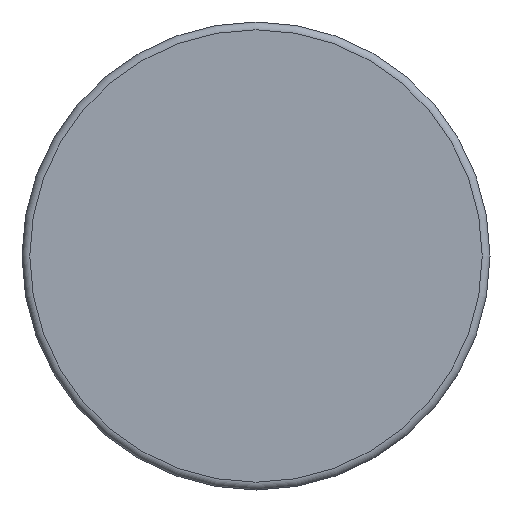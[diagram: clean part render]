
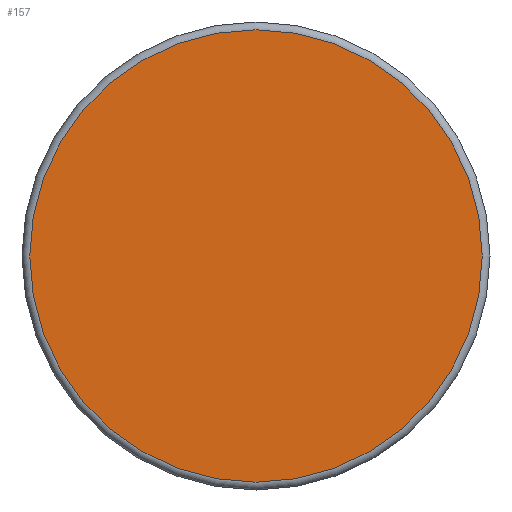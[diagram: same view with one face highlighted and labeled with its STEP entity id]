
A CAD part, front view. The second image highlights one B-rep face of the part: STEP entity #157.
In plain terms, the highlighted planar face has unit normal (0, -1, 0).
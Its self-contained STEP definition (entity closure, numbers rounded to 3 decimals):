
#157 = ADVANCED_FACE( '', ( #321 ), #322, .F. );
#321 = FACE_OUTER_BOUND( '', #521, .T. );
#322 = PLANE( '', #522 );
#521 = EDGE_LOOP( '', ( #749 ) );
#522 = AXIS2_PLACEMENT_3D( '', #750, #751, #752 );
#749 = ORIENTED_EDGE( '', *, *, #1150, .T. );
#750 = CARTESIAN_POINT( '', ( 29., 0., 0. ) );
#751 = DIRECTION( '', ( 0., 1., 0. ) );
#752 = DIRECTION( '', ( 0., 0., 1. ) );
#1150 = EDGE_CURVE( '', #1338, #1338, #1339, .T. );
#1338 = VERTEX_POINT( '', #1660 );
#1339 = CIRCLE( '', #1661, 29. );
#1660 = CARTESIAN_POINT( '', ( 0., 0., -29. ) );
#1661 = AXIS2_PLACEMENT_3D( '', #2029, #2030, #2031 );
#2029 = CARTESIAN_POINT( '', ( 0., 0., 0. ) );
#2030 = DIRECTION( '', ( 0., -1., 0. ) );
#2031 = DIRECTION( '', ( 0., 0., -1. ) );
